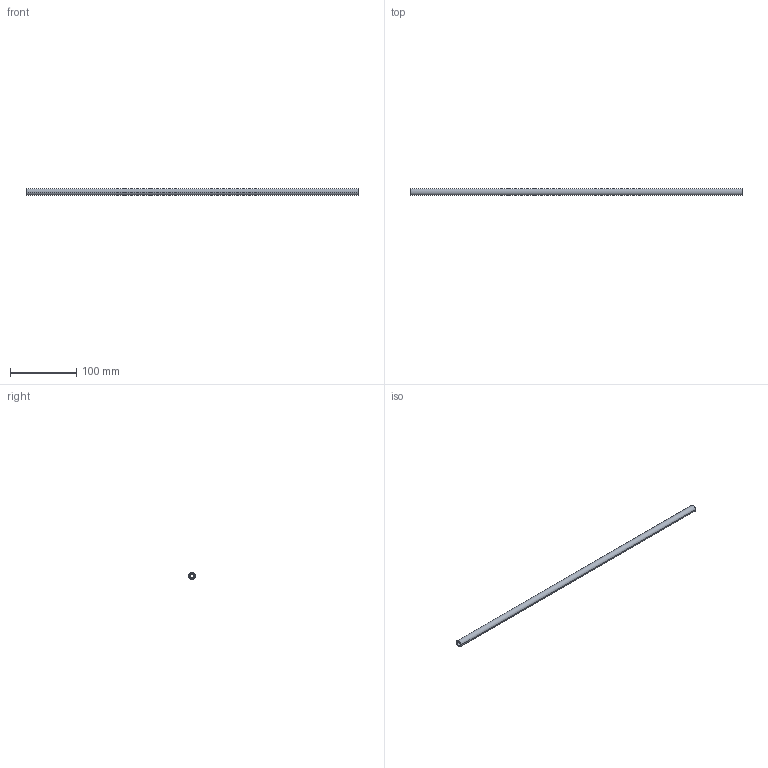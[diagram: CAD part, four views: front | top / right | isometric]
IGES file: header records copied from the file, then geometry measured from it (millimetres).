
Start section: START RECORD GO HERE.
Global section: file name: te106500.igs; native system: DASSAULT SYSTEMES CATIA V5 R20 - www.3ds.com; preprocessor: CATIA Version 5 Release 20 ; author: Utente; organization: NB04-ASUS; date: 20201107.142630; units: millimetre
Bounding box: 500 x 10 x 10 mm (x, y, z)
Surface area: 25522.3 mm2 (no closed solid volume)
Topology: 0 solids, 0 shells, 9 faces, 36 edges, 36 vertices
Faces by surface type: revolution 6, plane 3
